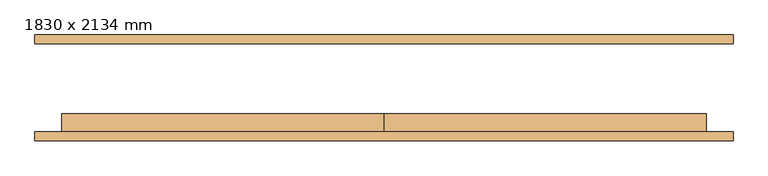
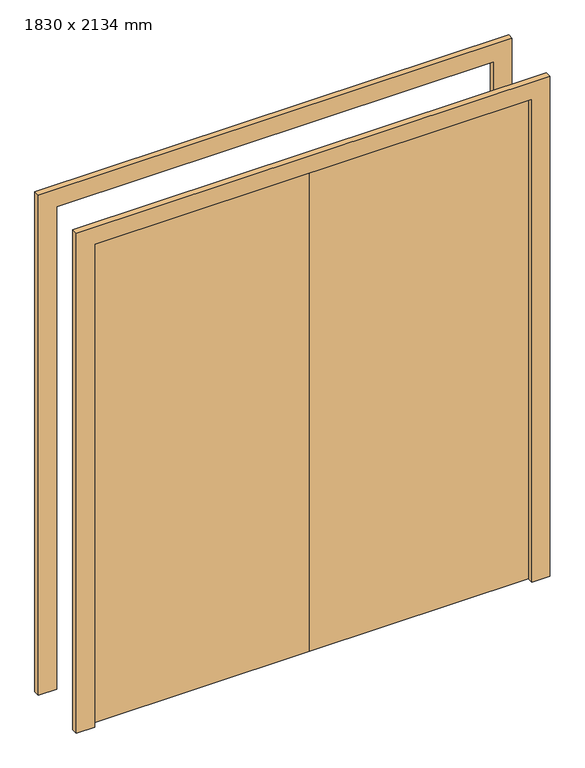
"""IFC4 building model written with IfcOpenShell, lengths in millimetres: door geometry, Descarga dupla : 1830 x 2134 mm."""

from ifc_helpers import new_model, si_unit, frame, origin, origin_with_axes, place, context, project, spatial, polyline, outline, extrude, source, transform, mapped, element, save


def door_1830_x_2134_mm_dff67cf6(model_context):
    return source(origin(), model_context, "Body", "SweptSolid", [
        extrude(outline(polyline([(0.0, -125.0), (0.0, -74.0), (915.0, -74.0), (915.0, -125.0), (0.0, -125.0)])), origin_with_axes(), (0.0, 0.0, 1.0), 2134.0),
        extrude(outline(polyline([(-915.0, -125.0), (-915.0, -74.0), (0.0, -74.0), (0.0, -125.0), (-915.0, -125.0)])), origin_with_axes(), (0.0, 0.0, 1.0), 2134.0),
        extrude(outline(polyline([(2134.0, -915.0), (2134.0, 915.0), (0.0, 915.0), (0.0, 991.0), (2210.0, 991.0), (2210.0, -991.0), (0.0, -991.0), (0.0, -915.0), (2134.0, -915.0)])), frame((0.0, 125.0, 0.0), z_axis=(0.0, 1.0, 0.0), x_axis=(0.0, 0.0, 1.0)), (0.0, 0.0, 1.0), 25.0),
        extrude(outline(polyline([(2134.0, -915.0), (2134.0, 915.0), (0.0, 915.0), (0.0, 991.0), (2210.0, 991.0), (2210.0, -991.0), (0.0, -991.0), (0.0, -915.0), (2134.0, -915.0)])), frame((0.0, -150.0, 0.0), z_axis=(0.0, 1.0, 0.0), x_axis=(0.0, 0.0, 1.0)), (0.0, 0.0, 1.0), 25.0),
    ])


if __name__ == "__main__":
    model = new_model("IFC4")
    model_context = context("Model", 3, world=origin())
    ifc_project = project(units=[si_unit("LENGTHUNIT", "METRE", prefix="MILLI")], contexts=[model_context])
    site = spatial("IfcSite", under=ifc_project)
    building = spatial("IfcBuilding", under=site)
    placement = place(None, origin())
    door_1830_x_2134_mm_shape = door_1830_x_2134_mm_dff67cf6(model_context)
    element("IfcDoor", 1, ObjectType="Descarga dupla : 1830 x 2134 mm", at=placement, inside=building, context=model_context, shape_type="MappedRepresentation", body=[
        mapped(door_1830_x_2134_mm_shape, transform((0.0, 0.0, 0.0), x_axis=(1.0, 0.0, 0.0), y_axis=(0.0, 1.0, 0.0), z_axis=(0.0, 0.0, 1.0))),
    ])
    save(model, "model.ifc")
